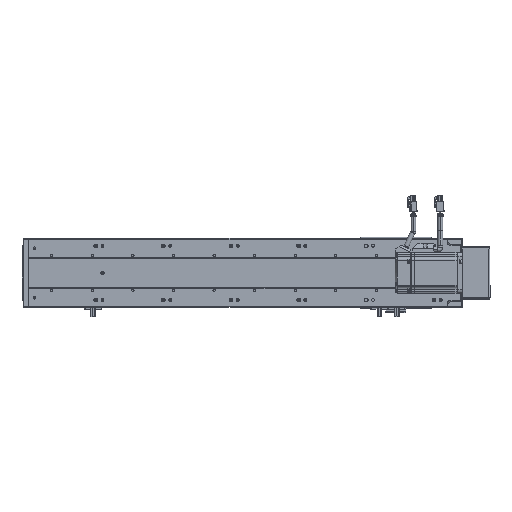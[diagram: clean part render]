
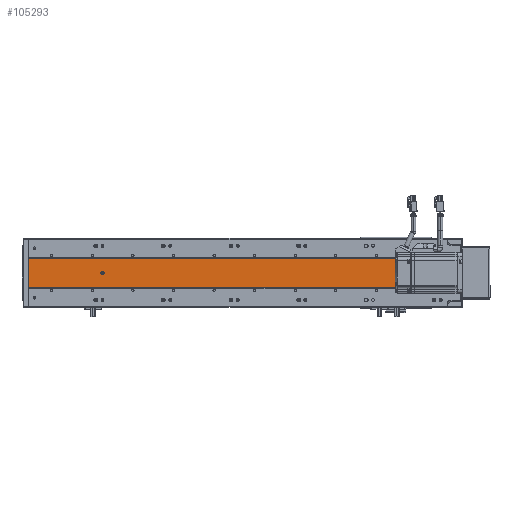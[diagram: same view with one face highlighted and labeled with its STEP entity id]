
A CAD part, front view. The second image highlights one B-rep face of the part: STEP entity #105293.
In plain terms, the highlighted planar face has unit normal (0, -1, 0).
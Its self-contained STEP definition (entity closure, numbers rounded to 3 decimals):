
#2435 = ORIENTED_EDGE ( 'NONE', *, *, #92892, .F. ) ;
#2561 = ORIENTED_EDGE ( 'NONE', *, *, #4423, .T. ) ;
#2567 = ORIENTED_EDGE ( 'NONE', *, *, #61753, .T. ) ;
#2575 = ORIENTED_EDGE ( 'NONE', *, *, #92855, .T. ) ;
#2587 = ORIENTED_EDGE ( 'NONE', *, *, #92906, .F. ) ;
#2603 = ORIENTED_EDGE ( 'NONE', *, *, #61976, .T. ) ;
#2607 = ORIENTED_EDGE ( 'NONE', *, *, #92865, .T. ) ;
#2611 = ORIENTED_EDGE ( 'NONE', *, *, #92655, .F. ) ;
#2623 = ORIENTED_EDGE ( 'NONE', *, *, #61931, .F. ) ;
#2625 = ORIENTED_EDGE ( 'NONE', *, *, #3581, .F. ) ;
#2631 = ORIENTED_EDGE ( 'NONE', *, *, #61935, .T. ) ;
#2633 = ORIENTED_EDGE ( 'NONE', *, *, #61950, .F. ) ;
#2665 = ORIENTED_EDGE ( 'NONE', *, *, #61918, .T. ) ;
#2683 = ORIENTED_EDGE ( 'NONE', *, *, #61957, .F. ) ;
#2711 = ORIENTED_EDGE ( 'NONE', *, *, #4427, .T. ) ;
#2777 = ORIENTED_EDGE ( 'NONE', *, *, #92842, .F. ) ;
#3581 = EDGE_CURVE ( 'NONE', #60706, #60728, #75711, .T. ) ;
#4423 = EDGE_CURVE ( 'NONE', #60405, #60395, #66760, .T. ) ;
#4427 = EDGE_CURVE ( 'NONE', #60369, #60375, #66776, .T. ) ;
#10914 = FACE_OUTER_BOUND ( 'NONE', #23431, .T. ) ;
#10942 = FACE_BOUND ( 'NONE', #23406, .T. ) ;
#10968 = FACE_BOUND ( 'NONE', #23448, .T. ) ;
#17644 = AXIS2_PLACEMENT_3D ( 'NONE', #70020, #70029, #70012 ) ;
#23406 = EDGE_LOOP ( 'NONE', ( #2623, #2625 ) ) ;
#23431 = EDGE_LOOP ( 'NONE', ( #2587, #2561, #2633, #2435, #2665, #2567, #2607, #2631, #2575, #2603, #2777, #2711 ) ) ;
#23448 = EDGE_LOOP ( 'NONE', ( #2683, #2611 ) ) ;
#33337 = DIRECTION ( 'NONE',  ( 0., -1., 0. ) ) ;
#33341 = DIRECTION ( 'NONE',  ( 1., 0., 0. ) ) ;
#33364 = CARTESIAN_POINT ( 'NONE',  ( 140.403, 89.548, 609. ) ) ;
#39226 = DIRECTION ( 'NONE',  ( 1., 0., 0. ) ) ;
#39243 = CARTESIAN_POINT ( 'NONE',  ( 140.403, 89.548, 109. ) ) ;
#39292 = DIRECTION ( 'NONE',  ( 0., -1., 0. ) ) ;
#60369 = VERTEX_POINT ( 'NONE', #72349 ) ;
#60375 = VERTEX_POINT ( 'NONE', #72351 ) ;
#60395 = VERTEX_POINT ( 'NONE', #72393 ) ;
#60405 = VERTEX_POINT ( 'NONE', #72401 ) ;
#60540 = CIRCLE ( 'NONE', #76489, 2.5 ) ;
#60706 = VERTEX_POINT ( 'NONE', #91154 ) ;
#60728 = VERTEX_POINT ( 'NONE', #97825 ) ;
#60865 = VERTEX_POINT ( 'NONE', #97959 ) ;
#60874 = VERTEX_POINT ( 'NONE', #97943 ) ;
#61084 = VERTEX_POINT ( 'NONE', #98056 ) ;
#61087 = VERTEX_POINT ( 'NONE', #98089 ) ;
#61092 = VERTEX_POINT ( 'NONE', #98087 ) ;
#61105 = VERTEX_POINT ( 'NONE', #98034 ) ;
#61113 = VERTEX_POINT ( 'NONE', #98054 ) ;
#61116 = VERTEX_POINT ( 'NONE', #98032 ) ;
#61131 = VERTEX_POINT ( 'NONE', #98038 ) ;
#61753 = EDGE_CURVE ( 'NONE', #66502, #61092, #90075, .T. ) ;
#61918 = EDGE_CURVE ( 'NONE', #61131, #66502, #90500, .T. ) ;
#61931 = EDGE_CURVE ( 'NONE', #60728, #60706, #90455, .T. ) ;
#61935 = EDGE_CURVE ( 'NONE', #61116, #61105, #90523, .T. ) ;
#61950 = EDGE_CURVE ( 'NONE', #61084, #60395, #90457, .T. ) ;
#61957 = EDGE_CURVE ( 'NONE', #60874, #60865, #90450, .T. ) ;
#61976 = EDGE_CURVE ( 'NONE', #61087, #61113, #90479, .T. ) ;
#63863 = DIRECTION ( 'NONE',  ( 0., 1., 0. ) ) ;
#63886 = DIRECTION ( 'NONE',  ( -1., 0., 0. ) ) ;
#63918 = CARTESIAN_POINT ( 'NONE',  ( 165.403, 89.548, 623. ) ) ;
#64823 = DIRECTION ( 'NONE',  ( 0., 1., 0. ) ) ;
#64826 = DIRECTION ( 'NONE',  ( -1., 0., 0. ) ) ;
#64834 = CARTESIAN_POINT ( 'NONE',  ( 165.403, 89.548, 633. ) ) ;
#66502 = VERTEX_POINT ( 'NONE', #91795 ) ;
#66760 = CIRCLE ( 'NONE', #93742, 4.75 ) ;
#66776 = CIRCLE ( 'NONE', #93704, 4.75 ) ;
#69424 = LINE ( 'NONE', #81251, #69455 ) ;
#69432 = VECTOR ( 'NONE', #81273, 1000. ) ;
#69455 = VECTOR ( 'NONE', #81283, 1000. ) ;
#69456 = LINE ( 'NONE', #81252, #69432 ) ;
#69478 = VECTOR ( 'NONE', #81312, 1000. ) ;
#69496 = LINE ( 'NONE', #81475, #69498 ) ;
#69498 = VECTOR ( 'NONE', #81489, 1000. ) ;
#69506 = LINE ( 'NONE', #81450, #69514 ) ;
#69514 = VECTOR ( 'NONE', #81460, 1000. ) ;
#69522 = LINE ( 'NONE', #81299, #69478 ) ;
#70012 = DIRECTION ( 'NONE',  ( -1., 0., 0. ) ) ;
#70020 = CARTESIAN_POINT ( 'NONE',  ( 161.989, 89.548, 639. ) ) ;
#70028 = PLANE ( 'NONE',  #17644 ) ;
#70029 = DIRECTION ( 'NONE',  ( 0., 1., 0. ) ) ;
#72349 = CARTESIAN_POINT ( 'NONE',  ( 161.989, 89.548, 619.698 ) ) ;
#72351 = CARTESIAN_POINT ( 'NONE',  ( 161.989, 89.548, 626.302 ) ) ;
#72393 = CARTESIAN_POINT ( 'NONE',  ( 161.989, 89.548, 636.302 ) ) ;
#72401 = CARTESIAN_POINT ( 'NONE',  ( 161.989, 89.548, 629.698 ) ) ;
#75711 = CIRCLE ( 'NONE', #93486, 2.5 ) ;
#76489 = AXIS2_PLACEMENT_3D ( 'NONE', #39243, #39292, #39226 ) ;
#81251 = CARTESIAN_POINT ( 'NONE',  ( 161.989, 89.548, 639. ) ) ;
#81252 = CARTESIAN_POINT ( 'NONE',  ( 118.817, 89.548, 639. ) ) ;
#81273 = DIRECTION ( 'NONE',  ( 0., 0., -1. ) ) ;
#81283 = DIRECTION ( 'NONE',  ( 0., 0., -1. ) ) ;
#81299 = CARTESIAN_POINT ( 'NONE',  ( 118.817, 89.548, 639. ) ) ;
#81312 = DIRECTION ( 'NONE',  ( 0., 0., -1. ) ) ;
#81450 = CARTESIAN_POINT ( 'NONE',  ( 161.989, 89.548, 639. ) ) ;
#81460 = DIRECTION ( 'NONE',  ( 1., 0., 0. ) ) ;
#81475 = CARTESIAN_POINT ( 'NONE',  ( 161.989, 89.548, 639. ) ) ;
#81489 = DIRECTION ( 'NONE',  ( 0., 0., -1. ) ) ;
#85788 = AXIS2_PLACEMENT_3D ( 'NONE', #94312, #105023, #105486 ) ;
#85815 = AXIS2_PLACEMENT_3D ( 'NONE', #87239, #87235, #87227 ) ;
#85817 = AXIS2_PLACEMENT_3D ( 'NONE', #87217, #87228, #87232 ) ;
#85826 = AXIS2_PLACEMENT_3D ( 'NONE', #87269, #87283, #87296 ) ;
#87187 = CARTESIAN_POINT ( 'NONE',  ( 118.817, 89.548, 639. ) ) ;
#87188 = DIRECTION ( 'NONE',  ( 0., 0., -1. ) ) ;
#87212 = CARTESIAN_POINT ( 'NONE',  ( 161.989, 89.548, 639. ) ) ;
#87217 = CARTESIAN_POINT ( 'NONE',  ( 115.403, 89.548, 623. ) ) ;
#87227 = DIRECTION ( 'NONE',  ( 1., 0., 0. ) ) ;
#87228 = DIRECTION ( 'NONE',  ( 0., 1., 0. ) ) ;
#87232 = DIRECTION ( 'NONE',  ( -1., 0., 0. ) ) ;
#87235 = DIRECTION ( 'NONE',  ( 0., -1., 0. ) ) ;
#87237 = DIRECTION ( 'NONE',  ( 0., 0., -1. ) ) ;
#87239 = CARTESIAN_POINT ( 'NONE',  ( 140.403, 89.548, 609. ) ) ;
#87258 = CARTESIAN_POINT ( 'NONE',  ( 161.989, 89.548, 0. ) ) ;
#87269 = CARTESIAN_POINT ( 'NONE',  ( 140.403, 89.548, 109. ) ) ;
#87283 = DIRECTION ( 'NONE',  ( 0., -1., 0. ) ) ;
#87285 = DIRECTION ( 'NONE',  ( 1., 0., 0. ) ) ;
#87296 = DIRECTION ( 'NONE',  ( 1., 0., 0. ) ) ;
#90075 = CIRCLE ( 'NONE', #85788, 4.75 ) ;
#90425 = VECTOR ( 'NONE', #87285, 1000. ) ;
#90433 = VECTOR ( 'NONE', #87188, 1000. ) ;
#90442 = VECTOR ( 'NONE', #87237, 1000. ) ;
#90450 = CIRCLE ( 'NONE', #85826, 2.5 ) ;
#90455 = CIRCLE ( 'NONE', #85815, 2.5 ) ;
#90457 = LINE ( 'NONE', #87212, #90442 ) ;
#90479 = LINE ( 'NONE', #87258, #90425 ) ;
#90500 = LINE ( 'NONE', #87187, #90433 ) ;
#90523 = CIRCLE ( 'NONE', #85817, 4.75 ) ;
#91154 = CARTESIAN_POINT ( 'NONE',  ( 137.903, 89.548, 609. ) ) ;
#91795 = CARTESIAN_POINT ( 'NONE',  ( 118.817, 89.548, 636.302 ) ) ;
#92655 = EDGE_CURVE ( 'NONE', #60865, #60874, #60540, .T. ) ;
#92842 = EDGE_CURVE ( 'NONE', #60369, #61113, #69424, .T. ) ;
#92855 = EDGE_CURVE ( 'NONE', #61105, #61087, #69456, .T. ) ;
#92865 = EDGE_CURVE ( 'NONE', #61092, #61116, #69522, .T. ) ;
#92892 = EDGE_CURVE ( 'NONE', #61131, #61084, #69506, .T. ) ;
#92906 = EDGE_CURVE ( 'NONE', #60405, #60375, #69496, .T. ) ;
#93486 = AXIS2_PLACEMENT_3D ( 'NONE', #33364, #33337, #33341 ) ;
#93704 = AXIS2_PLACEMENT_3D ( 'NONE', #63918, #63863, #63886 ) ;
#93742 = AXIS2_PLACEMENT_3D ( 'NONE', #64834, #64823, #64826 ) ;
#94312 = CARTESIAN_POINT ( 'NONE',  ( 115.403, 89.548, 633. ) ) ;
#97825 = CARTESIAN_POINT ( 'NONE',  ( 142.903, 89.548, 609. ) ) ;
#97943 = CARTESIAN_POINT ( 'NONE',  ( 142.903, 89.548, 109. ) ) ;
#97959 = CARTESIAN_POINT ( 'NONE',  ( 137.903, 89.548, 109. ) ) ;
#98032 = CARTESIAN_POINT ( 'NONE',  ( 118.817, 89.548, 626.302 ) ) ;
#98034 = CARTESIAN_POINT ( 'NONE',  ( 118.817, 89.548, 619.698 ) ) ;
#98038 = CARTESIAN_POINT ( 'NONE',  ( 118.817, 89.548, 639. ) ) ;
#98054 = CARTESIAN_POINT ( 'NONE',  ( 161.989, 89.548, 0. ) ) ;
#98056 = CARTESIAN_POINT ( 'NONE',  ( 161.989, 89.548, 639. ) ) ;
#98087 = CARTESIAN_POINT ( 'NONE',  ( 118.817, 89.548, 629.698 ) ) ;
#98089 = CARTESIAN_POINT ( 'NONE',  ( 118.817, 89.548, 0. ) ) ;
#105023 = DIRECTION ( 'NONE',  ( 0., 1., 0. ) ) ;
#105293 = ADVANCED_FACE ( 'NONE', ( #10942, #10968, #10914 ), #70028, .F. ) ;
#105486 = DIRECTION ( 'NONE',  ( -1., 0., 0. ) ) ;
